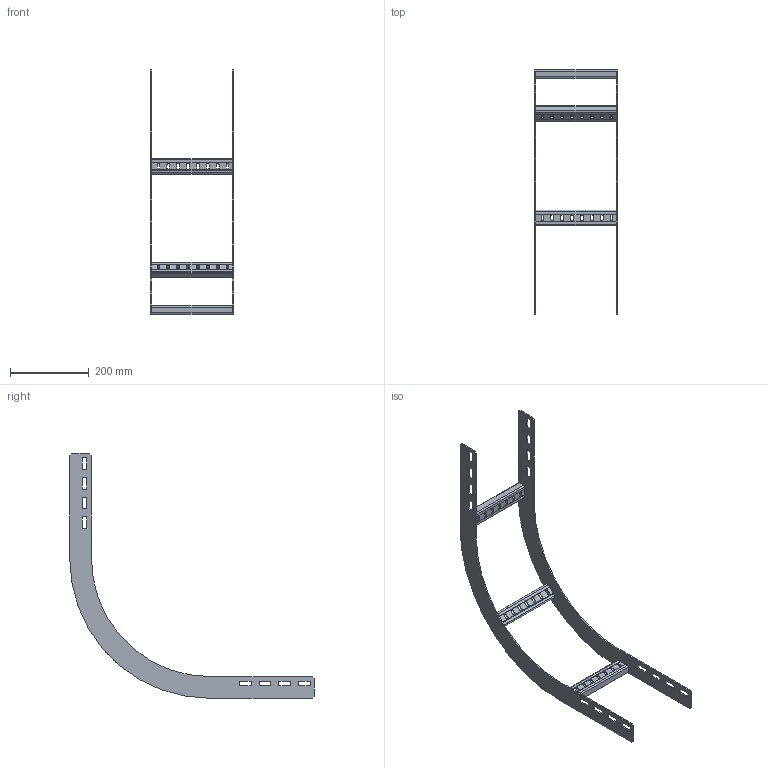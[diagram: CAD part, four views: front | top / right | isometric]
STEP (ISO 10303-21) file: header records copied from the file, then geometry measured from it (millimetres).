
FILE_DESCRIPTION(('Creo Elements/Direct Modeling STEP Export'),'2;1');
FILE_NAME('//pserver/office/EK/ME10-3D/3D-output/WPIR06-20-90-30.stp','2019-08-14T 9:42:05',(''),(''),'PTC Creo Elements/Direct Modeling STEP processor for AP214 (Solid Model)','PTC Creo Elements/Direct Modeling 19.0C 15-Aug-2015 (C) Parametric Technology GmbH','');
FILE_SCHEMA(('AUTOMOTIVE_DESIGN { 1 0 10303 214 1 1 1 1 }'));
Length unit declared in the file: millimetre
Products named in the file (3): WPIRS_60-90-300; WPHBS20; WPIR06-20-90-30
Assembly tree (5 placements, depth 2):
  WPIR06-20-90-30
    WPHBS20  x3
    WPIRS_60-90-300  x2
Bounding box: 211 x 620 x 620 mm (x, y, z)
Volume: 417612.1 mm3; surface area: 359610.6 mm2
Topology: 5 solids, 5 shells, 308 faces, 894 edges, 596 vertices
Faces by surface type: plane 202, cylinder 106
Entity records: 4041 total; most frequent: CARTESIAN_POINT 694, ORIENTED_EDGE 684, DIRECTION 662, EDGE_CURVE 342, VECTOR 270, LINE 270, VERTEX_POINT 228, AXIS2_PLACEMENT_3D 196
